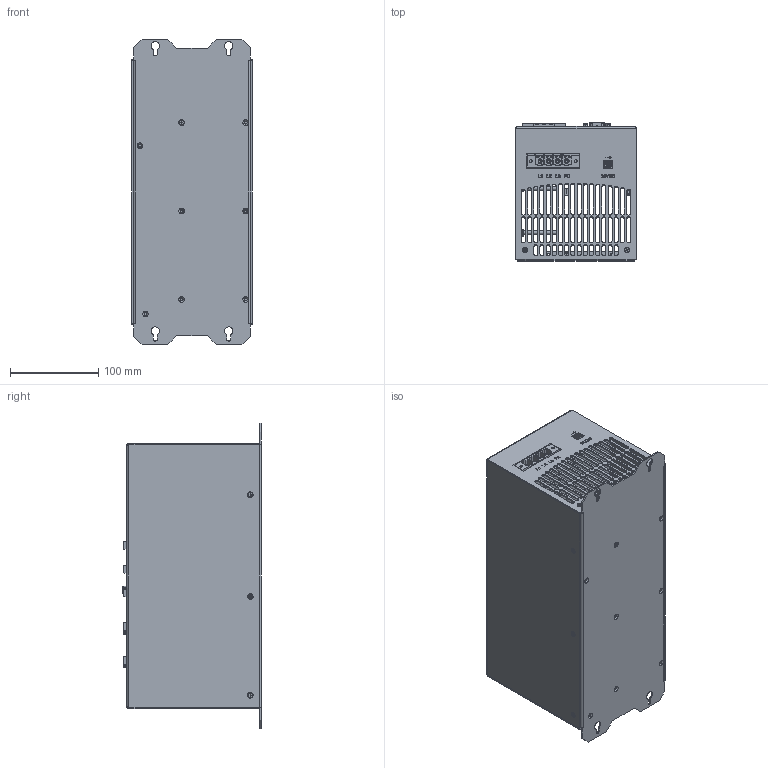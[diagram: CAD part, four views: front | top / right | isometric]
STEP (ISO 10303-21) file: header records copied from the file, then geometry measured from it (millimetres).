
FILE_DESCRIPTION (( 'STEP AP203' ), '1' );
FILE_NAME ('TAM 100-NEW-EMPTY.STEP', '2013-01-28T12:37:30', ( 'YAEL' ), ( 'Microsoft' ), 'SwSTEP 2.0', 'SolidWorks 2012', '' );
FILE_SCHEMA (( 'CONFIG_CONTROL_DESIGN' ));
Length unit declared in the file: millimetre
Products named in the file (1): TAM 100-NEW-EMPTY
Bounding box: 136.4 x 156.6 x 345 mm (x, y, z)
Volume: 422343 mm3; surface area: 517546.8 mm2
Topology: 76 solids, 76 shells, 6472 faces, 17072 edges, 11110 vertices
Faces by surface type: plane 4472, cylinder 1157, bspline 605, cone 177, torus 39, sphere 22
Entity records: 226150 total; most frequent: CARTESIAN_POINT 67726, ORIENTED_EDGE 33888, DIRECTION 30217, EDGE_CURVE 16944, LINE 12991, VECTOR 12991, VERTEX_POINT 11080, AXIS2_PLACEMENT_3D 8613
